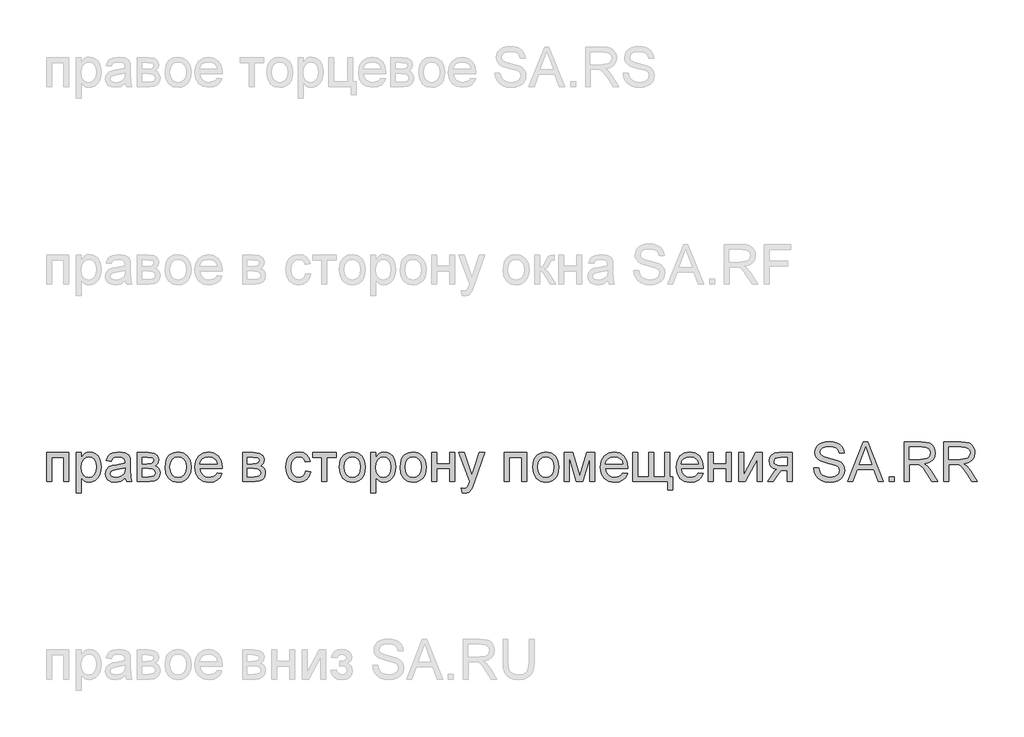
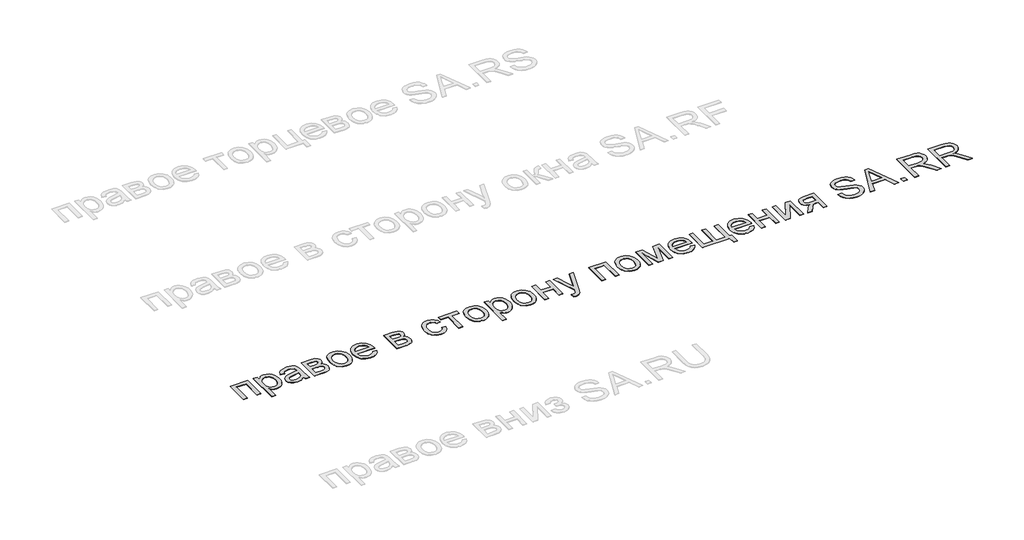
# One storey, part 8 of 17: 1 proxy.
"""IFC4 building model written with IfcOpenShell, lengths in millimetres."""

from ifc_helpers import new_model, si_unit, origin, origin_with_axes, place, context, project, spatial, polyline, outline, extrude, element, save

model = new_model("IFC4")

# Units and contexts
model_context = context("Model", 3, world=origin())
ifc_project = project(units=[si_unit("LENGTHUNIT", "METRE", prefix="MILLI")], contexts=[model_context])

# Site, building, storey
site = spatial("IfcSite", under=ifc_project)
building = spatial("IfcBuilding", under=site)
storey = spatial("IfcBuildingStorey", under=building, Name="Уровень 1", Elevation=0.0)

# Proxy
placement = place(None, origin())
element("IfcBuildingElementProxy", 1, Name="Текст модели 1", ObjectType="Текст модели 1", at=placement, inside=storey, context=model_context, shape_type="SweptSolid", body=[
    extrude(outline(polyline([(24434.1363388, -11578.6972647), (24547.1496877, -11578.6972647), (24547.1496877, -11726.2424702), (24522.0356102, -11726.2424702), (24522.0356102, -11603.8113423), (24459.2504163, -11603.8113423), (24459.2504163, -11726.2424702), (24434.1363388, -11726.2424702), (24434.1363388, -11578.6972647)])), origin_with_axes(), (0.0, 0.0, 1.0), 2.0),
    extrude(outline(polyline([(24584.820804, -11782.7491447), (24584.820804, -11578.6972647), (24609.9348816, -11578.6972647), (24609.9348816, -11603.3208329), (24627.2989117, -11582.498712), (24637.9920151, -11577.2931818), (24650.7452576, -11575.558005), (24667.729143, -11577.9860262), (24682.5793129, -11585.2700897), (24694.6703678, -11596.9687371), (24703.3769083, -11612.6405101), (24708.6376209, -11631.1449745), (24710.3911917, -11651.341696), (24708.4107603, -11672.8198732), (24702.4694661, -11692.0294447), (24692.7573814, -11707.9955233), (24679.4645787, -11719.7432217), (24663.982878, -11726.9721029), (24647.7040997, -11729.3817299), (24636.1587365, -11727.7691805), (24625.8519092, -11722.9315323), (24609.9348816, -11706.6220972), (24609.9348816, -11782.7491447), (24584.820804, -11782.7491447)]), holes=[polyline([(24609.9348816, -11653.6470899), (24612.651077, -11676.161468), (24620.7996632, -11691.9068174), (24632.823273, -11701.1774436), (24647.1645395, -11704.2676524), (24661.7387978, -11701.067079), (24674.0689761, -11691.465359), (24682.4750796, -11675.1436611), (24685.2771142, -11651.7831544), (24682.5425247, -11629.3914037), (24674.3387562, -11613.4253251), (24662.3335404, -11603.8603932), (24648.1946091, -11600.6720826), (24634.0004954, -11604.0627283), (24621.5354271, -11614.2346654), (24612.835018, -11630.869063), (24609.9348816, -11653.6470899)])]), origin_with_axes(), (0.0, 0.0, 1.0), 2.0),
    extrude(outline(polyline([(24832.8223197, -11707.4069121), (24808.4685316, -11724.4275857), (24781.564095, -11729.3817299), (24760.5764272, -11726.4018858), (24745.0947266, -11717.4623533), (24735.5481888, -11703.8875077), (24732.3660096, -11687.0017241), (24737.173001, -11667.1360964), (24749.8036161, -11652.7151221), (24767.3883755, -11644.4745655), (24789.1179387, -11640.6976436), (24832.6751669, -11632.0646795), (24832.8223197, -11626.4728732), (24831.0932743, -11615.264735), (24825.9061382, -11607.9316206), (24814.3055926, -11602.4869671), (24798.1433103, -11600.6720826), (24783.1827758, -11601.8799618), (24772.7349272, -11605.5035994), (24765.6102792, -11612.2051831), (24760.6193468, -11622.6469004), (24735.5052692, -11619.5076407), (24746.3700508, -11594.9821744), (24755.6284144, -11586.7293549), (24768.2467668, -11580.6102511), (24801.3806719, -11575.558005), (24831.8167756, -11580.0216399), (24849.0091275, -11591.229778), (24856.7101239, -11608.2749771), (24857.9363972, -11630.249795), (24857.9363972, -11661.4952391), (24859.2117215, -11705.1260437), (24864.2149166, -11726.2424702), (24839.1008391, -11726.2424702), (24832.8223197, -11707.4069121)]), holes=[polyline([(24832.8223197, -11657.178757), (24792.3062493, -11664.8797535), (24770.6993135, -11668.9509809), (24760.9136524, -11675.5728568), (24757.4800871, -11685.2358905), (24759.3501539, -11692.703895), (24764.9603543, -11698.8229989), (24774.188061, -11702.906489), (24786.9106467, -11704.2676524), (24800.3996532, -11702.7654676), (24812.3190298, -11698.2589131), (24828.7020414, -11683.7153116), (24832.6751669, -11664.2911423), (24832.8223197, -11657.178757)])]), origin_with_axes(), (0.0, 0.0, 1.0), 2.0),
    extrude(outline(polyline([(24892.4682539, -11578.6972647), (24947.7977059, -11578.6972647), (24978.1357078, -11582.0572536), (24995.2054324, -11594.3690377), (25000.5581154, -11604.2098811), (25002.3423431, -11615.8288208), (24998.025861, -11633.2664273), (24985.0273638, -11645.7008388), (24994.3225156, -11650.9186317), (25001.9008847, -11659.3124726), (25006.940868, -11670.2201737), (25008.6208625, -11682.9795476), (25004.3656941, -11702.1216741), (24994.2489392, -11715.5984179), (24978.2338097, -11723.5814571), (24956.2835173, -11726.2424702), (24892.4682539, -11726.2424702), (24892.4682539, -11578.6972647)]), holes=[polyline([(24917.5823314, -11701.1283927), (24948.3863171, -11701.1283927), (24965.1739988, -11699.9940899), (24975.7076866, -11696.5911814), (24981.3608066, -11690.4046326), (24983.5067849, -11680.9194084), (24979.2148283, -11668.8283535), (24968.0312157, -11661.7895447), (24945.9337705, -11660.3180167), (24917.5823314, -11660.3180167), (24917.5823314, -11701.1283927)]), polyline([(24917.5823314, -11635.2039392), (24942.4021033, -11635.2039392), (24962.8808677, -11633.9286149), (24972.8382071, -11628.8273179), (24977.2282655, -11619.6057426), (24975.3030164, -11612.1132126), (24969.5272691, -11607.2939585), (24943.1869183, -11603.8113423), (24917.5823314, -11603.8113423), (24917.5823314, -11635.2039392)])]), origin_with_axes(), (0.0, 0.0, 1.0), 2.0),
    extrude(outline(polyline([(25033.73494, -11652.4698675), (25039.1673308, -11616.8956785), (25045.9578193, -11603.0725126), (25055.4645032, -11591.8919656), (25075.5999111, -11579.6414952), (25099.7084445, -11575.558005), (25126.0917149, -11580.5305433), (25147.1652219, -11595.4481582), (25160.9791908, -11619.1336274), (25165.5838471, -11650.4097283), (25163.5482334, -11675.7813232), (25157.4413923, -11695.095128), (25147.4411333, -11709.5590218), (25133.7252663, -11720.3808838), (25117.4342253, -11727.1315184), (25099.7084445, -11729.3817299), (25073.006343, -11724.4275857), (25051.9573615, -11709.5651531), (25038.2905454, -11685.3830433), (25033.73494, -11652.4698675)]), holes=[polyline([(25058.8490175, -11652.4208165), (25061.7552853, -11675.1497925), (25070.4740886, -11691.3427316), (25083.5952131, -11701.0364222), (25099.7084445, -11704.2676524), (25115.7480995, -11701.0180281), (25128.8446985, -11691.2691552), (25137.5635018, -11674.8616183), (25140.4697695, -11651.6360016), (25137.5451077, -11629.5692133), (25128.7711221, -11613.5970033), (25115.656129, -11603.9033128), (25099.7084445, -11600.6720826), (25083.5952131, -11603.89105), (25070.4740886, -11613.5479524), (25061.7552853, -11629.7041033), (25058.8490175, -11652.4208165)])]), origin_with_axes(), (0.0, 0.0, 1.0), 2.0),
    extrude(outline(polyline([(25297.1384486, -11682.2928346), (25321.7620168, -11685.4320942), (25312.8899293, -11703.9856095), (25298.7326039, -11717.8547608), (25279.6088715, -11726.4999876), (25255.8375632, -11729.3817299), (25226.3702154, -11724.4091916), (25203.6964218, -11709.4915767), (25189.2386594, -11685.5976411), (25184.4194052, -11653.6961408), (25189.2877103, -11620.7216513), (25203.8926255, -11596.0612949), (25226.2598508, -11580.6838275), (25254.4150862, -11575.558005), (25281.6935361, -11580.6715648), (25303.4905443, -11596.012244), (25317.7827598, -11620.6235494), (25322.5468317, -11653.548988), (25322.3996789, -11660.3180167), (25209.5334828, -11660.3180167), (25213.8806217, -11679.1167867), (25223.9789824, -11692.936887), (25238.5532408, -11701.434961), (25256.3280726, -11704.2676524), (25280.9516408, -11699.0192026), (25290.0996397, -11692.2133857), (25297.1384486, -11682.2928346)]), holes=[polyline([(25209.5334828, -11635.2039392), (25297.4327541, -11635.2039392), (25294.0359771, -11621.9356619), (25287.3773129, -11612.4443064), (25272.7356095, -11603.6151385), (25254.3169843, -11600.6720826), (25237.3882812, -11603.020396), (25223.3903713, -11610.0653362), (25213.6598925, -11621.0466137), (25209.5334828, -11635.2039392)])]), origin_with_axes(), (0.0, 0.0, 1.0), 2.0),
    extrude(outline(polyline([(25426.1424015, -11578.6972647), (25481.4718536, -11578.6972647), (25511.8098555, -11582.0572536), (25528.87958, -11594.3690377), (25534.2322631, -11604.2098811), (25536.0164908, -11615.8288208), (25531.7000087, -11633.2664273), (25518.7015115, -11645.7008388), (25527.9966633, -11650.9186317), (25535.5750324, -11659.3124726), (25540.6150157, -11670.2201737), (25542.2950101, -11682.9795476), (25538.0398417, -11702.1216741), (25527.9230869, -11715.5984179), (25511.9079573, -11723.5814571), (25489.957665, -11726.2424702), (25426.1424015, -11726.2424702), (25426.1424015, -11578.6972647)]), holes=[polyline([(25451.2564791, -11635.2039392), (25476.076251, -11635.2039392), (25496.5550154, -11633.9286149), (25506.5123547, -11628.8273179), (25510.9024132, -11619.6057426), (25508.9771641, -11612.1132126), (25503.2014168, -11607.2939585), (25476.8610659, -11603.8113423), (25451.2564791, -11603.8113423), (25451.2564791, -11635.2039392)]), polyline([(25451.2564791, -11701.1283927), (25482.0604648, -11701.1283927), (25498.8481465, -11699.9940899), (25509.3818343, -11696.5911814), (25515.0349543, -11690.4046326), (25517.1809326, -11680.9194084), (25512.888976, -11668.8283535), (25501.7053633, -11661.7895447), (25479.6079182, -11660.3180167), (25451.2564791, -11660.3180167), (25451.2564791, -11701.1283927)])]), origin_with_axes(), (0.0, 0.0, 1.0), 2.0),
    extrude(outline(polyline([(25746.3468901, -11672.8750555), (25771.4609677, -11676.0143152), (25764.458947, -11698.3508836), (25751.3010343, -11715.2305359), (25733.2257656, -11725.8439314), (25711.471677, -11729.3817299), (25684.7573128, -11724.4459798), (25663.8677468, -11709.6387295), (25650.3848717, -11685.6099039), (25645.89058, -11653.0094277), (25647.8096977, -11630.6605965), (25653.5670509, -11611.2916095), (25663.2546102, -11595.6504933), (25676.9643458, -11584.4852748), (25693.3657515, -11577.7898225), (25711.1283205, -11575.558005), (25732.3489802, -11578.6236883), (25749.3144716, -11587.8207382), (25761.4852342, -11602.6586453), (25768.321708, -11622.6469004), (25743.2076304, -11625.7861601), (25738.6520251, -11614.829408), (25731.5580339, -11606.9751274), (25722.3180645, -11602.2478438), (25711.3245242, -11600.6720826), (25695.0947968, -11603.7745541), (25682.2127956, -11613.0819685), (25673.806692, -11629.0970981), (25671.0046575, -11652.3227147), (25673.7453784, -11675.861031), (25681.967541, -11691.9313428), (25694.6165502, -11701.183575), (25710.6378111, -11704.2676524), (25723.6424397, -11702.3424033), (25734.3048862, -11696.566656), (25742.0610649, -11686.7932576), (25746.3468901, -11672.8750555)])), origin_with_axes(), (0.0, 0.0, 1.0), 2.0),
    extrude(outline(polyline([(25780.8787467, -11578.6972647), (25900.170615, -11578.6972647), (25900.170615, -11603.8113423), (25853.0817197, -11603.8113423), (25853.0817197, -11726.2424702), (25827.9676421, -11726.2424702), (25827.9676421, -11603.8113423), (25780.8787467, -11603.8113423), (25780.8787467, -11578.6972647)])), origin_with_axes(), (0.0, 0.0, 1.0), 2.0),
    extrude(outline(polyline([(25915.8669135, -11652.4698675), (25921.2993043, -11616.8956785), (25928.0897928, -11603.0725126), (25937.5964767, -11591.8919656), (25957.7318846, -11579.6414952), (25981.840418, -11575.558005), (26008.2236884, -11580.5305433), (26029.2971954, -11595.4481582), (26043.1111643, -11619.1336274), (26047.7158206, -11650.4097283), (26045.6802069, -11675.7813232), (26039.5733658, -11695.095128), (26029.5731068, -11709.5590218), (26015.8572398, -11720.3808838), (25999.5661988, -11727.1315184), (25981.840418, -11729.3817299), (25955.1383165, -11724.4275857), (25934.089335, -11709.5651531), (25920.4225189, -11685.3830433), (25915.8669135, -11652.4698675)]), holes=[polyline([(25940.980991, -11652.4208165), (25943.8872588, -11675.1497925), (25952.6060621, -11691.3427316), (25965.7271866, -11701.0364222), (25981.840418, -11704.2676524), (25997.880073, -11701.0180281), (26010.976672, -11691.2691552), (26019.6954753, -11674.8616183), (26022.601743, -11651.6360016), (26019.6770812, -11629.5692133), (26010.9030956, -11613.5970033), (25997.7881025, -11603.9033128), (25981.840418, -11600.6720826), (25965.7271866, -11603.89105), (25952.6060621, -11613.5479524), (25943.8872588, -11629.7041033), (25940.980991, -11652.4208165)])]), origin_with_axes(), (0.0, 0.0, 1.0), 2.0),
    extrude(outline(polyline([(26075.9691578, -11782.7491447), (26075.9691578, -11578.6972647), (26101.0832353, -11578.6972647), (26101.0832353, -11603.3208329), (26118.4472655, -11582.498712), (26129.1403688, -11577.2931818), (26141.8936113, -11575.558005), (26158.8774968, -11577.9860262), (26173.7276667, -11585.2700897), (26185.8187216, -11596.9687371), (26194.5252621, -11612.6405101), (26199.7859747, -11631.1449745), (26201.5395455, -11651.341696), (26199.5591141, -11672.8198732), (26193.6178199, -11692.0294447), (26183.9057352, -11707.9955233), (26170.6129324, -11719.7432217), (26155.1312318, -11726.9721029), (26138.8524535, -11729.3817299), (26127.3070902, -11727.7691805), (26117.000263, -11722.9315323), (26101.0832353, -11706.6220972), (26101.0832353, -11782.7491447), (26075.9691578, -11782.7491447)]), holes=[polyline([(26101.0832353, -11653.6470899), (26103.7994307, -11676.161468), (26111.9480169, -11691.9068174), (26123.9716268, -11701.1774436), (26138.3128933, -11704.2676524), (26152.8871516, -11701.067079), (26165.2173298, -11691.465359), (26173.6234334, -11675.1436611), (26176.425468, -11651.7831544), (26173.6908785, -11629.3914037), (26165.48711, -11613.4253251), (26153.4818942, -11603.8603932), (26139.3429628, -11600.6720826), (26125.1488492, -11604.0627283), (26112.6837809, -11614.2346654), (26103.9833717, -11630.869063), (26101.0832353, -11653.6470899)])]), origin_with_axes(), (0.0, 0.0, 1.0), 2.0),
    extrude(outline(polyline([(26223.5143633, -11652.4698675), (26228.9467541, -11616.8956785), (26235.7372426, -11603.0725126), (26245.2439265, -11591.8919656), (26265.3793344, -11579.6414952), (26289.4878678, -11575.558005), (26315.8711382, -11580.5305433), (26336.9446452, -11595.4481582), (26350.7586141, -11619.1336274), (26355.3632704, -11650.4097283), (26353.3276567, -11675.7813232), (26347.2208156, -11695.095128), (26337.2205567, -11709.5590218), (26323.5046896, -11720.3808838), (26307.2136486, -11727.1315184), (26289.4878678, -11729.3817299), (26262.7857663, -11724.4275857), (26241.7367848, -11709.5651531), (26228.0699687, -11685.3830433), (26223.5143633, -11652.4698675)]), holes=[polyline([(26248.6284409, -11652.4208165), (26251.5347086, -11675.1497925), (26260.2535119, -11691.3427316), (26273.3746364, -11701.0364222), (26289.4878678, -11704.2676524), (26305.5275228, -11701.0180281), (26318.6241218, -11691.2691552), (26327.3429251, -11674.8616183), (26330.2491929, -11651.6360016), (26327.324531, -11629.5692133), (26318.5505454, -11613.5970033), (26305.4355523, -11603.9033128), (26289.4878678, -11600.6720826), (26273.3746364, -11603.89105), (26260.2535119, -11613.5479524), (26251.5347086, -11629.7041033), (26248.6284409, -11652.4208165)])]), origin_with_axes(), (0.0, 0.0, 1.0), 2.0),
    extrude(outline(polyline([(26383.6166076, -11578.6972647), (26408.7306852, -11578.6972647), (26408.7306852, -11635.2039392), (26474.6551387, -11635.2039392), (26474.6551387, -11578.6972647), (26499.7692163, -11578.6972647), (26499.7692163, -11726.2424702), (26474.6551387, -11726.2424702), (26474.6551387, -11660.3180167), (26408.7306852, -11660.3180167), (26408.7306852, -11726.2424702), (26383.6166076, -11726.2424702), (26383.6166076, -11578.6972647)])), origin_with_axes(), (0.0, 0.0, 1.0), 2.0),
    extrude(outline(polyline([(26537.4403326, -11782.7491447), (26534.3010729, -11758.5670349), (26547.0543154, -11760.7743269), (26558.973692, -11758.0029492), (26566.282281, -11750.2774273), (26573.1494116, -11731.7852256), (26575.1114489, -11725.70291), (26521.7440341, -11578.6972647), (26548.2315377, -11578.6972647), (26576.5339259, -11660.6123223), (26586.3931634, -11693.3783453), (26596.2524009, -11664.4382951), (26625.3396039, -11578.6972647), (26651.6309039, -11578.6972647), (26600.2745773, -11729.7741374), (26586.9327236, -11762.5401604), (26572.3645966, -11780.2475471), (26552.7932745, -11785.8884044), (26537.4403326, -11782.7491447)])), origin_with_axes(), (0.0, 0.0, 1.0), 2.0),
    extrude(outline(polyline([(26750.9099916, -11578.6972647), (26863.9233405, -11578.6972647), (26863.9233405, -11726.2424702), (26838.809263, -11726.2424702), (26838.809263, -11603.8113423), (26776.0240692, -11603.8113423), (26776.0240692, -11726.2424702), (26750.9099916, -11726.2424702), (26750.9099916, -11578.6972647)])), origin_with_axes(), (0.0, 0.0, 1.0), 2.0),
    extrude(outline(polyline([(26895.3159375, -11652.4698675), (26900.7483283, -11616.8956785), (26907.5388168, -11603.0725126), (26917.0455006, -11591.8919656), (26937.1809085, -11579.6414952), (26961.2894419, -11575.558005), (26987.6727124, -11580.5305433), (27008.7462193, -11595.4481582), (27022.5601882, -11619.1336274), (27027.1648445, -11650.4097283), (27025.1292308, -11675.7813232), (27019.0223897, -11695.095128), (27009.0221308, -11709.5590218), (26995.3062638, -11720.3808838), (26979.0152227, -11727.1315184), (26961.2894419, -11729.3817299), (26934.5873405, -11724.4275857), (26913.538359, -11709.5651531), (26899.8715428, -11685.3830433), (26895.3159375, -11652.4698675)]), holes=[polyline([(26920.430015, -11652.4208165), (26923.3362828, -11675.1497925), (26932.0550861, -11691.3427316), (26945.1762105, -11701.0364222), (26961.2894419, -11704.2676524), (26977.3290969, -11701.0180281), (26990.425696, -11691.2691552), (26999.1444992, -11674.8616183), (27002.050767, -11651.6360016), (26999.1261051, -11629.5692133), (26990.3521196, -11613.5970033), (26977.2371264, -11603.9033128), (26961.2894419, -11600.6720826), (26945.1762105, -11603.89105), (26932.0550861, -11613.5479524), (26923.3362828, -11629.7041033), (26920.430015, -11652.4208165)])]), origin_with_axes(), (0.0, 0.0, 1.0), 2.0),
    extrude(outline(polyline([(27055.4181818, -11578.6972647), (27098.6320535, -11578.6972647), (27131.9376368, -11696.8119106), (27167.8429195, -11578.6972647), (27209.2419067, -11578.6972647), (27209.2419067, -11726.2424702), (27184.1278291, -11726.2424702), (27184.1278291, -11607.4411113), (27148.0263427, -11726.2424702), (27115.0641159, -11726.2424702), (27080.5322593, -11601.7512031), (27080.5322593, -11726.2424702), (27055.4181818, -11726.2424702), (27055.4181818, -11578.6972647)])), origin_with_axes(), (0.0, 0.0, 1.0), 2.0),
    extrude(outline(polyline([(27350.2142872, -11682.2928346), (27374.8378554, -11685.4320942), (27365.965768, -11703.9856095), (27351.8084425, -11717.8547608), (27332.6847102, -11726.4999876), (27308.9134019, -11729.3817299), (27279.4460541, -11724.4091916), (27256.7722605, -11709.4915767), (27242.314498, -11685.5976411), (27237.4952439, -11653.6961408), (27242.363549, -11620.7216513), (27256.9684642, -11596.0612949), (27279.3356895, -11580.6838275), (27307.4909249, -11575.558005), (27334.7693748, -11580.6715648), (27356.566383, -11596.012244), (27370.8585985, -11620.6235494), (27375.6226704, -11653.548988), (27375.4755176, -11660.3180167), (27262.6093215, -11660.3180167), (27266.9564604, -11679.1167867), (27277.0548211, -11692.936887), (27291.6290795, -11701.434961), (27309.4039112, -11704.2676524), (27334.0274794, -11699.0192026), (27343.1754784, -11692.2133857), (27350.2142872, -11682.2928346)]), holes=[polyline([(27262.6093215, -11635.2039392), (27350.5085928, -11635.2039392), (27347.1118157, -11621.9356619), (27340.4531516, -11612.4443064), (27325.8114482, -11603.6151385), (27307.392823, -11600.6720826), (27290.4641199, -11603.020396), (27276.4662099, -11610.0653362), (27266.7357312, -11621.0466137), (27262.6093215, -11635.2039392)])]), origin_with_axes(), (0.0, 0.0, 1.0), 2.0),
    extrude(outline(polyline([(27400.7367479, -11578.6972647), (27425.8508254, -11578.6972647), (27425.8508254, -11701.1283927), (27482.3574999, -11701.1283927), (27482.3574999, -11578.6972647), (27507.4715774, -11578.6972647), (27507.4715774, -11701.1283927), (27563.9782519, -11701.1283927), (27563.9782519, -11578.6972647), (27589.0923294, -11578.6972647), (27589.0923294, -11701.1283927), (27604.7886279, -11701.1283927), (27604.7886279, -11767.0528462), (27579.6745504, -11767.0528462), (27579.6745504, -11726.2424702), (27400.7367479, -11726.2424702), (27400.7367479, -11578.6972647)])), origin_with_axes(), (0.0, 0.0, 1.0), 2.0),
    extrude(outline(polyline([(27733.2039697, -11682.2928346), (27757.8275379, -11685.4320942), (27748.9554504, -11703.9856095), (27734.798125, -11717.8547608), (27715.6743926, -11726.4999876), (27691.9030844, -11729.3817299), (27662.4357365, -11724.4091916), (27639.7619429, -11709.4915767), (27625.3041805, -11685.5976411), (27620.4849264, -11653.6961408), (27625.3532314, -11620.7216513), (27639.9581466, -11596.0612949), (27662.3253719, -11580.6838275), (27690.4806073, -11575.558005), (27717.7590572, -11580.6715648), (27739.5560655, -11596.012244), (27753.848281, -11620.6235494), (27758.6123528, -11653.548988), (27758.4652, -11660.3180167), (27645.5990039, -11660.3180167), (27649.9461428, -11679.1167867), (27660.0445036, -11692.936887), (27674.6187619, -11701.434961), (27692.3935937, -11704.2676524), (27717.0171619, -11699.0192026), (27726.1651608, -11692.2133857), (27733.2039697, -11682.2928346)]), holes=[polyline([(27645.5990039, -11635.2039392), (27733.4982753, -11635.2039392), (27730.1014982, -11621.9356619), (27723.4428341, -11612.4443064), (27708.8011307, -11603.6151385), (27690.3825054, -11600.6720826), (27673.4538023, -11603.020396), (27659.4558924, -11610.0653362), (27649.7254136, -11621.0466137), (27645.5990039, -11635.2039392)])]), origin_with_axes(), (0.0, 0.0, 1.0), 2.0),
    extrude(outline(polyline([(27783.7264304, -11578.6972647), (27808.8405079, -11578.6972647), (27808.8405079, -11635.2039392), (27874.7649614, -11635.2039392), (27874.7649614, -11578.6972647), (27899.879039, -11578.6972647), (27899.879039, -11726.2424702), (27874.7649614, -11726.2424702), (27874.7649614, -11660.3180167), (27808.8405079, -11660.3180167), (27808.8405079, -11726.2424702), (27783.7264304, -11726.2424702), (27783.7264304, -11578.6972647)])), origin_with_axes(), (0.0, 0.0, 1.0), 2.0),
    extrude(outline(polyline([(27937.5501553, -11578.6972647), (27962.6642328, -11578.6972647), (27962.6642328, -11691.2201043), (28024.3703061, -11578.6972647), (28056.8420236, -11578.6972647), (28056.8420236, -11726.2424702), (28031.727946, -11726.2424702), (28031.727946, -11614.4063437), (27970.4142802, -11726.2424702), (27937.5501553, -11726.2424702), (27937.5501553, -11578.6972647)])), origin_with_axes(), (0.0, 0.0, 1.0), 2.0),
    extrude(outline(polyline([(28207.5264888, -11578.6972647), (28207.5264888, -11726.2424702), (28182.4124113, -11726.2424702), (28182.4124113, -11669.7357958), (28168.727201, -11669.7357958), (28150.0878466, -11672.9241064), (28132.5766636, -11694.359364), (28112.5638831, -11726.2424702), (28083.525731, -11726.2424702), (28108.7379104, -11685.9226036), (28119.8724721, -11671.4525784), (28130.124117, -11665.0269063), (28112.9562906, -11659.7661937), (28100.8897611, -11649.7720662), (28093.7528504, -11636.4792634), (28091.3738802, -11621.3225252), (28094.6235045, -11604.1301733), (28104.3723773, -11590.5185395), (28120.2771423, -11581.6525834), (28141.9944427, -11578.6972647), (28207.5264888, -11578.6972647)]), holes=[polyline([(28182.4124113, -11603.8113423), (28149.3030317, -11603.8113423), (28132.2026503, -11605.2644761), (28122.496697, -11609.6238778), (28116.4879577, -11623.2355116), (28118.7013811, -11632.8065748), (28125.3416511, -11639.4468449), (28137.6105156, -11643.3279999), (28156.7097225, -11644.6217183), (28182.4124113, -11644.6217183), (28182.4124113, -11603.8113423)])]), origin_with_axes(), (0.0, 0.0, 1.0), 2.0),
    extrude(outline(polyline([(28317.400578, -11657.178757), (28342.5146556, -11657.178757), (28350.6080595, -11682.31736), (28358.7382515, -11691.2078416), (28370.3755853, -11698.2098622), (28384.6003558, -11702.7532049), (28400.492858, -11704.2676524), (28426.735107, -11699.6813902), (28443.6822042, -11687.0753005), (28449.2494851, -11670.2263051), (28445.0801558, -11654.5545321), (28438.72806, -11648.3557205), (28428.0104312, -11643.1501903), (28391.4429609, -11633.5607329), (28352.0795874, -11621.1753724), (28339.577731, -11612.7263493), (28330.7179062, -11602.4869671), (28325.4387996, -11590.677955), (28323.6790974, -11577.5200423), (28325.8557325, -11562.8108939), (28332.385638, -11549.0950268), (28343.0971354, -11537.4699558), (28357.8185466, -11529.0331954), (28375.4891451, -11523.9012415), (28395.0482045, -11522.1905903), (28416.2382074, -11523.9809493), (28434.7794599, -11529.3520264), (28450.0097745, -11538.193457), (28461.2669636, -11550.3948766), (28468.3916116, -11565.1959955), (28471.2243029, -11581.8365244), (28446.1102254, -11581.8365244), (28441.4994377, -11566.8514645), (28431.8854549, -11556.0357338), (28416.8636068, -11549.4874343), (28396.0292231, -11547.3046678), (28374.7043301, -11549.4629088), (28360.0748895, -11555.9376319), (28351.6136036, -11565.4657756), (28348.7931749, -11576.7842783), (28350.7920005, -11586.4350493), (28356.788477, -11594.1973594), (28370.9641965, -11601.1380664), (28397.7950567, -11608.2259262), (28442.2352017, -11620.8320159), (28456.5519427, -11629.9432266), (28466.5399389, -11641.188153), (28472.4076567, -11654.4441675), (28474.3635626, -11669.588643), (28472.1133511, -11685.0703436), (28465.3627165, -11699.6323393), (28454.3875703, -11712.1648526), (28439.463824, -11721.5581062), (28421.517314, -11727.425824), (28401.4738767, -11729.3817299), (28376.8687025, -11727.2725398), (28356.6167987, -11720.9449695), (28340.4851732, -11710.3744935), (28328.2408341, -11695.5365864), (28320.3804222, -11677.4613177), (28317.400578, -11657.178757)])), origin_with_axes(), (0.0, 0.0, 1.0), 2.0),
    extrude(outline(polyline([(28488.637384, -11726.2424702), (28568.835659, -11525.3298499), (28590.2218656, -11525.3298499), (28670.4201406, -11726.2424702), (28643.883586, -11726.2424702), (28620.8786986, -11663.4572764), (28538.1297751, -11663.4572764), (28515.1739386, -11726.2424702), (28488.637384, -11726.2424702)]), holes=[polyline([(28547.3513505, -11638.3431989), (28611.7061742, -11638.3431989), (28593.60638, -11588.9489096), (28579.5287623, -11550.4439275), (28567.0207745, -11584.6324276), (28547.3513505, -11638.3431989)])]), origin_with_axes(), (0.0, 0.0, 1.0), 2.0),
    extrude(outline(polyline([(28700.3902605, -11726.2424702), (28700.3902605, -11701.1283927), (28725.504338, -11701.1283927), (28725.504338, -11726.2424702), (28700.3902605, -11726.2424702)])), origin_with_axes(), (0.0, 0.0, 1.0), 2.0),
    extrude(outline(polyline([(28775.7324931, -11726.2424702), (28775.7324931, -11525.3298499), (28862.3073893, -11525.3298499), (28885.5759255, -11526.684882), (28902.5046286, -11530.749978), (28914.8777264, -11538.2547707), (28924.4794465, -11549.9288927), (28930.6414699, -11564.4050492), (28932.6954777, -11580.3159455), (28929.2925692, -11600.1079968), (28919.0838439, -11616.5155338), (28901.7627333, -11628.5452751), (28877.0226691, -11635.2039392), (28891.2964905, -11645.9460934), (28911.6526276, -11671.795935), (28945.1544146, -11726.2424702), (28915.9691096, -11726.2424702), (28889.8249625, -11684.5982284), (28870.9403534, -11657.0316042), (28857.6720761, -11644.0085816), (28845.728174, -11639.2261157), (28831.160047, -11638.3431989), (28800.8465706, -11638.3431989), (28800.8465706, -11726.2424702), (28775.7324931, -11726.2424702)]), holes=[polyline([(28800.8465706, -11613.2291213), (28857.0589395, -11613.2291213), (28885.7292096, -11609.6729287), (28895.1592514, -11605.0498783), (28902.0141193, -11598.2931123), (28907.5814002, -11581.2479132), (28904.9265184, -11568.9974428), (28896.9618732, -11559.1259426), (28883.2582689, -11552.6144313), (28863.3865098, -11550.4439275), (28800.8465706, -11550.4439275), (28800.8465706, -11613.2291213)])]), origin_with_axes(), (0.0, 0.0, 1.0), 2.0),
    extrude(outline(polyline([(28976.6451134, -11726.2424702), (28976.6451134, -11525.3298499), (29063.2200096, -11525.3298499), (29086.4885458, -11526.684882), (29103.4172489, -11530.749978), (29115.7903467, -11538.2547707), (29125.3920668, -11549.9288927), (29131.5540902, -11564.4050492), (29133.608098, -11580.3159455), (29130.2051895, -11600.1079968), (29119.9964642, -11616.5155338), (29102.6753536, -11628.5452751), (29077.9352894, -11635.2039392), (29092.2091108, -11645.9460934), (29112.5652479, -11671.795935), (29146.0670349, -11726.2424702), (29116.8817299, -11726.2424702), (29090.7375828, -11684.5982284), (29071.8529737, -11657.0316042), (29058.5846964, -11644.0085816), (29046.6407943, -11639.2261157), (29032.0726673, -11638.3431989), (29001.7591909, -11638.3431989), (29001.7591909, -11726.2424702), (28976.6451134, -11726.2424702)]), holes=[polyline([(29001.7591909, -11613.2291213), (29057.9715598, -11613.2291213), (29086.6418299, -11609.6729287), (29096.0718717, -11605.0498783), (29102.9267396, -11598.2931123), (29108.4940204, -11581.2479132), (29105.8391387, -11568.9974428), (29097.8744935, -11559.1259426), (29084.1708892, -11552.6144313), (29064.2991301, -11550.4439275), (29001.7591909, -11550.4439275), (29001.7591909, -11613.2291213)])]), origin_with_axes(), (0.0, 0.0, 1.0), 2.0),
])

save(model, "model.ifc")
